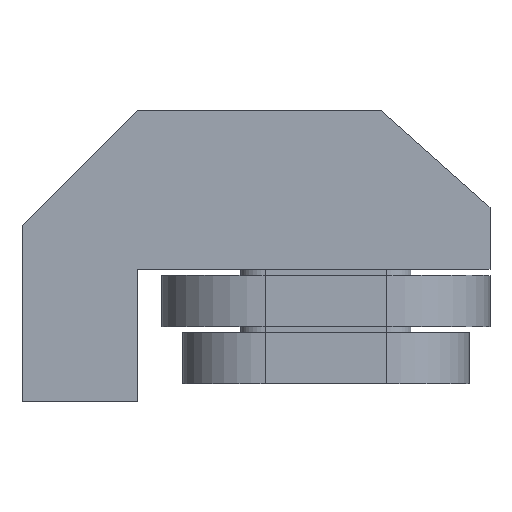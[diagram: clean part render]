
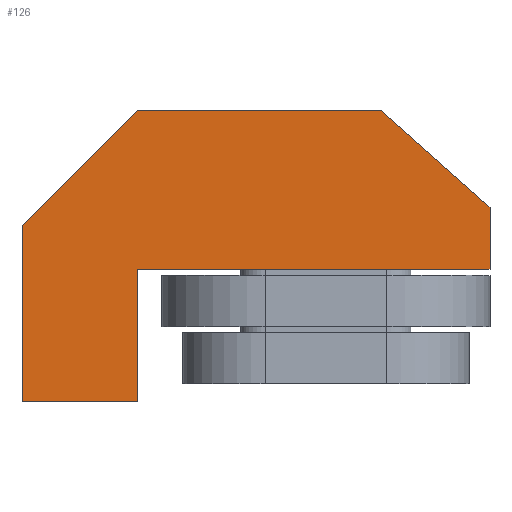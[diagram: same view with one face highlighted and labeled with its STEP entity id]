
A CAD part, top view. The second image highlights one B-rep face of the part: STEP entity #126.
In plain terms, the highlighted planar face has unit normal (0, 0, 1).
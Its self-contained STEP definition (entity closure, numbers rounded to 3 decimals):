
#126=ADVANCED_FACE('',(#197),#198,.T.);
#197=FACE_OUTER_BOUND('',#321,.T.);
#198=PLANE('',#322);
#321=EDGE_LOOP('',(#485,#486,#487,#488,#489,#490,#491,#492));
#322=AXIS2_PLACEMENT_3D('',#493,#494,#495);
#485=ORIENTED_EDGE('',*,*,#867,.F.);
#486=ORIENTED_EDGE('',*,*,#889,.F.);
#487=ORIENTED_EDGE('',*,*,#886,.F.);
#488=ORIENTED_EDGE('',*,*,#883,.F.);
#489=ORIENTED_EDGE('',*,*,#880,.F.);
#490=ORIENTED_EDGE('',*,*,#877,.F.);
#491=ORIENTED_EDGE('',*,*,#874,.F.);
#492=ORIENTED_EDGE('',*,*,#871,.F.);
#493=CARTESIAN_POINT('',(-83.656,133.537,105.0));
#494=DIRECTION('',(0.0,0.0,1.0));
#495=DIRECTION('',(1.0,0.0,0.0));
#867=EDGE_CURVE('',#993,#994,#995,.T.);
#871=EDGE_CURVE('',#994,#1001,#1002,.T.);
#874=EDGE_CURVE('',#1001,#1006,#1007,.T.);
#877=EDGE_CURVE('',#1006,#1011,#1012,.T.);
#880=EDGE_CURVE('',#1011,#1016,#1017,.T.);
#883=EDGE_CURVE('',#1016,#1021,#1022,.T.);
#886=EDGE_CURVE('',#1021,#1026,#1027,.T.);
#889=EDGE_CURVE('',#1026,#993,#1031,.T.);
#993=VERTEX_POINT('',#1203);
#994=VERTEX_POINT('',#1204);
#995=LINE('',#1205,#1206);
#1001=VERTEX_POINT('',#1215);
#1002=LINE('',#1216,#1217);
#1006=VERTEX_POINT('',#1223);
#1007=LINE('',#1224,#1225);
#1011=VERTEX_POINT('',#1231);
#1012=LINE('',#1232,#1233);
#1016=VERTEX_POINT('',#1239);
#1017=LINE('',#1240,#1241);
#1021=VERTEX_POINT('',#1247);
#1022=LINE('',#1248,#1249);
#1026=VERTEX_POINT('',#1255);
#1027=LINE('',#1256,#1257);
#1031=LINE('',#1263,#1264);
#1203=CARTESIAN_POINT('',(-250.0,145.0,105.0));
#1204=CARTESIAN_POINT('',(-155.0,240.0,105.0));
#1205=CARTESIAN_POINT('',(-250.0,145.0,105.0));
#1206=VECTOR('',#1519,1.0);
#1215=CARTESIAN_POINT('',(45.0,240.0,105.0));
#1216=CARTESIAN_POINT('',(-155.0,240.0,105.0));
#1217=VECTOR('',#1523,1.0);
#1223=CARTESIAN_POINT('',(135.0,160.0,105.0));
#1224=CARTESIAN_POINT('',(45.0,240.0,105.0));
#1225=VECTOR('',#1526,1.0);
#1231=CARTESIAN_POINT('',(135.0,109.0,105.0));
#1232=CARTESIAN_POINT('',(135.0,160.0,105.0));
#1233=VECTOR('',#1529,1.0);
#1239=CARTESIAN_POINT('',(-155.0,109.0,105.0));
#1240=CARTESIAN_POINT('',(135.0,109.0,105.0));
#1241=VECTOR('',#1532,1.0);
#1247=CARTESIAN_POINT('',(-155.0,0.0,105.0));
#1248=CARTESIAN_POINT('',(-155.0,109.0,105.0));
#1249=VECTOR('',#1535,1.0);
#1255=CARTESIAN_POINT('',(-250.0,0.0,105.0));
#1256=CARTESIAN_POINT('',(-155.0,0.0,105.0));
#1257=VECTOR('',#1538,1.0);
#1263=CARTESIAN_POINT('',(-250.0,0.0,105.0));
#1264=VECTOR('',#1541,1.0);
#1519=DIRECTION('',(0.707,0.707,0.0));
#1523=DIRECTION('',(1.0,0.0,0.0));
#1526=DIRECTION('',(0.747,-0.664,0.0));
#1529=DIRECTION('',(0.0,-1.0,0.0));
#1532=DIRECTION('',(-1.0,0.0,0.0));
#1535=DIRECTION('',(0.0,-1.0,0.0));
#1538=DIRECTION('',(-1.0,0.0,0.0));
#1541=DIRECTION('',(0.0,1.0,0.0));
